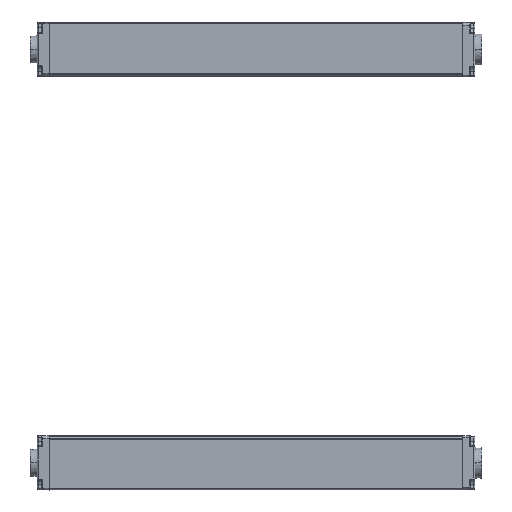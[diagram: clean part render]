
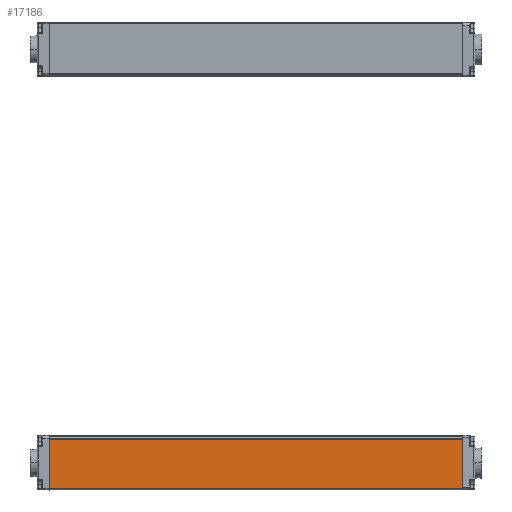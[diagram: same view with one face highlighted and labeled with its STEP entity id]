
A CAD part, left-side view. The second image highlights one B-rep face of the part: STEP entity #17186.
In plain terms, the highlighted planar face has unit normal (-1, 0, -0.009) as drawn and (1, 0, 0) by its records, which use the part's own axes.
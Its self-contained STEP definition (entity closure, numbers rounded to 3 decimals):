
#83 = CARTESIAN_POINT ( 'NONE',  ( 15., 0., -16.693 ) ) ;
#293 = DIRECTION ( 'NONE',  ( 0., 0., -1. ) ) ;
#397 = LINE ( 'NONE', #5934, #16336 ) ;
#675 = AXIS2_PLACEMENT_3D ( 'NONE', #8031, #13595, #1125 ) ;
#900 = EDGE_CURVE ( 'NONE', #1990, #4284, #14085, .T. ) ;
#1125 = DIRECTION ( 'NONE',  ( 0., 0., 1. ) ) ;
#1251 = EDGE_CURVE ( 'NONE', #8072, #4284, #7196, .T. ) ;
#1572 = VECTOR ( 'NONE', #4186, 1000. ) ;
#1615 = CARTESIAN_POINT ( 'NONE',  ( 15., 230., -16.693 ) ) ;
#1990 = VERTEX_POINT ( 'NONE', #83 ) ;
#2496 = PLANE ( 'NONE',  #675 ) ;
#4186 = DIRECTION ( 'NONE',  ( 0., 0., -1. ) ) ;
#4284 = VERTEX_POINT ( 'NONE', #6688 ) ;
#4296 = VECTOR ( 'NONE', #293, 1000. ) ;
#4577 = ORIENTED_EDGE ( 'NONE', *, *, #900, .T. ) ;
#5934 = CARTESIAN_POINT ( 'NONE',  ( 15., 230., 10.9 ) ) ;
#6688 = CARTESIAN_POINT ( 'NONE',  ( 15., 230., -16.693 ) ) ;
#7015 = VERTEX_POINT ( 'NONE', #9659 ) ;
#7154 = DIRECTION ( 'NONE',  ( 0., 1., 0. ) ) ;
#7196 = LINE ( 'NONE', #12755, #4296 ) ;
#7237 = ORIENTED_EDGE ( 'NONE', *, *, #13540, .T. ) ;
#7529 = ORIENTED_EDGE ( 'NONE', *, *, #1251, .F. ) ;
#8031 = CARTESIAN_POINT ( 'NONE',  ( 15., 230., -16.9 ) ) ;
#8072 = VERTEX_POINT ( 'NONE', #9799 ) ;
#9659 = CARTESIAN_POINT ( 'NONE',  ( 15., 0., 10.9 ) ) ;
#9799 = CARTESIAN_POINT ( 'NONE',  ( 15., 230., 10.9 ) ) ;
#10747 = VECTOR ( 'NONE', #7154, 1000. ) ;
#11123 = LINE ( 'NONE', #16663, #1572 ) ;
#11504 = DIRECTION ( 'NONE',  ( 0., -1., 0. ) ) ;
#12190 = ORIENTED_EDGE ( 'NONE', *, *, #12690, .T. ) ;
#12690 = EDGE_CURVE ( 'NONE', #7015, #1990, #11123, .T. ) ;
#12755 = CARTESIAN_POINT ( 'NONE',  ( 15., 230., -16.9 ) ) ;
#13540 = EDGE_CURVE ( 'NONE', #8072, #7015, #397, .T. ) ;
#13595 = DIRECTION ( 'NONE',  ( -1., 0., 0. ) ) ;
#14085 = LINE ( 'NONE', #1615, #10747 ) ;
#14969 = FACE_OUTER_BOUND ( 'NONE', #16696, .T. ) ;
#16336 = VECTOR ( 'NONE', #11504, 1000. ) ;
#16663 = CARTESIAN_POINT ( 'NONE',  ( 15., 0., -16.9 ) ) ;
#16696 = EDGE_LOOP ( 'NONE', ( #12190, #4577, #7529, #7237 ) ) ;
#17186 = ADVANCED_FACE ( 'NONE', ( #14969 ), #2496, .F. ) ;
